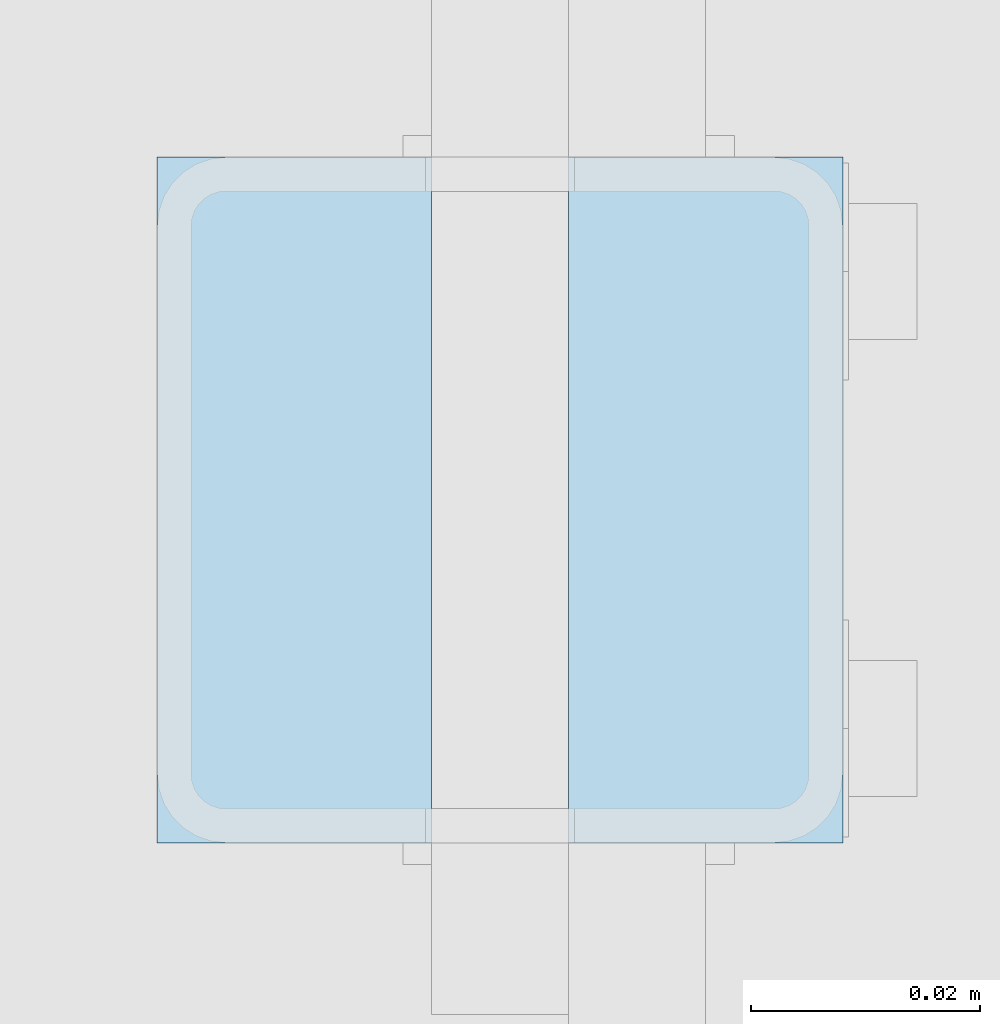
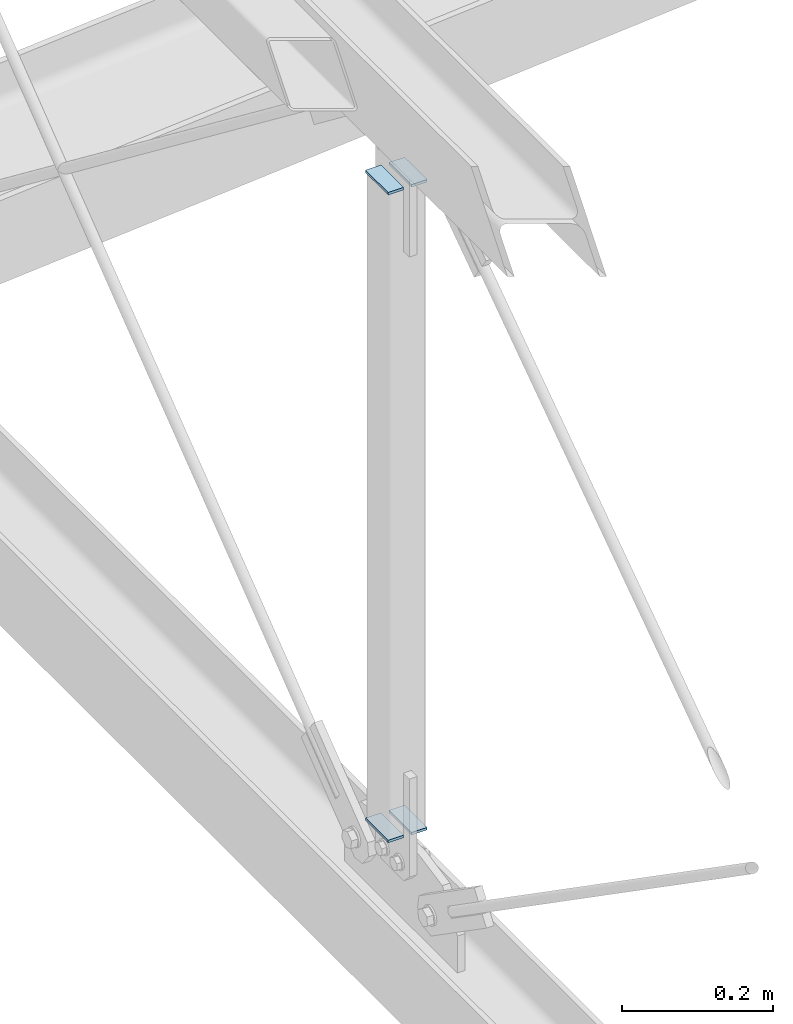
# One storey, part 204 of 271: 4 plates, 1 element without a shape of its own.
"""IFC2X3 building model written with IfcOpenShell, lengths in millimetres."""

import ifcopenshell
import ifcopenshell.guid

model = None  # the IFC model being written
_history = None  # IfcOwnerHistory: only IFC2X3 demands one
_inside = {}  # id of a spatial element -> (the spatial element, [elements in it])
_under = {}  # id of a project, library or spatial element -> (it, [spatial elements below it])
_declared = {}  # id of a project -> (the project, [libraries it declares])
_typed = {}  # id of a type object -> (the type object, [elements of that type])
_made_of = {}  # id of a material, layer set ... -> (it, [elements and type objects made of it])


def new_model(schema):
    """Start an empty IFC model of exactly this schema.

    Asked for "IFC4X3", IfcOpenShell would pick the latest addendum, in which some entities
    have other attributes; the version numbers below select the first issue.
    IFC2X3 requires an IfcOwnerHistory on every rooted entity: one is made here for all.
    """
    global model, _history
    if schema == "IFC4X3":
        model = ifcopenshell.file(schema_version=(4, 3, 0, 0))
    else:
        model = ifcopenshell.file(schema=schema)
    _inside.clear()
    _under.clear()
    _declared.clear()
    _typed.clear()
    _made_of.clear()
    _history = None
    if model.schema == "IFC2X3":
        org = make("IfcOrganization", Name="unknown")
        user = make(
            "IfcPersonAndOrganization",
            ThePerson=make("IfcPerson", FamilyName="unknown"),
            TheOrganization=org,
        )
        app = make(
            "IfcApplication",
            ApplicationDeveloper=org,
            Version="unknown",
            ApplicationFullName="unknown",
            ApplicationIdentifier="unknown",
        )
        _history = make(
            "IfcOwnerHistory",
            OwningUser=user,
            OwningApplication=app,
            ChangeAction="ADDED",
            CreationDate=0,
        )
    return model


def make(cls, **values):
    """One entity of the class cls with the attributes given. An attribute that is None is left unset."""
    return model.create_entity(
        cls, **{name: value for name, value in values.items() if value is not None}
    )


def rooted(cls, **values):
    """An entity with a GlobalId (a new one), such as an element, a storey or a relation."""
    return make(cls, GlobalId=ifcopenshell.guid.new(), OwnerHistory=_history, **values)


def si_unit(unit_type, name, prefix=None):
    """IfcSIUnit, for example si_unit("LENGTHUNIT", "METRE", prefix="MILLI")."""
    return make("IfcSIUnit", UnitType=unit_type, Prefix=prefix, Name=name)


def assignment(units):
    """IfcUnitAssignment: the units of a project."""
    return None if units is None else make("IfcUnitAssignment", Units=units)


def point(xyz):
    """IfcCartesianPoint."""
    return None if xyz is None else make("IfcCartesianPoint", Coordinates=xyz)


def direction(xyz):
    """IfcDirection."""
    return None if xyz is None else make("IfcDirection", DirectionRatios=xyz)


def frame(location, z_axis=None, x_axis=None):
    """IfcAxis2Placement3D, a coordinate frame: its origin and axes. An axis left out is left unset."""
    return make(
        "IfcAxis2Placement3D",
        Location=point(location),
        Axis=direction(z_axis),
        RefDirection=direction(x_axis),
    )


def origin_with_axes():
    """The frame at (0, 0, 0) with the z axis (0, 0, 1) and the x axis (1, 0, 0) written out."""
    return frame((0.0, 0.0, 0.0), z_axis=(0.0, 0.0, 1.0), x_axis=(1.0, 0.0, 0.0))


def place(relative_to, where):
    """IfcLocalPlacement: puts the frame where relative to a parent placement (None: the world)."""
    return make(
        "IfcLocalPlacement", PlacementRelTo=relative_to, RelativePlacement=where
    )


def context(
    kind, dimensions, precision=None, world=None, true_north=None, identifier=None
):
    """IfcGeometricRepresentationContext, for example the 3D "Model" context."""
    return make(
        "IfcGeometricRepresentationContext",
        ContextIdentifier=identifier,
        ContextType=kind,
        CoordinateSpaceDimension=dimensions,
        Precision=precision,
        WorldCoordinateSystem=world,
        TrueNorth=true_north,
    )


def subcontext(parent, identifier, kind, view, scale=None):
    """IfcGeometricRepresentationSubContext, for example "Body" below "Model"."""
    return make(
        "IfcGeometricRepresentationSubContext",
        ContextIdentifier=identifier,
        ContextType=kind,
        ParentContext=parent,
        TargetScale=scale,
        TargetView=view,
    )


def project(units=None, contexts=None):
    """IfcProject with its units and contexts."""
    return rooted(
        "IfcProject",
        Name="project",
        RepresentationContexts=contexts,
        UnitsInContext=assignment(units),
    )


def spatial(cls, under=None, at=None, **own):
    """A site, building, storey or space (cls), placed at a placement, below another one or the project."""
    s = rooted(cls, ObjectPlacement=at, **own)
    if under is not None:
        _under.setdefault(under.id(), (under, []))[1].append(s)
    return s


def polyline(points):
    """IfcPolyline through the points."""
    return make("IfcPolyline", Points=[point(p) for p in points])


def outline(outer, holes=None, kind="AREA"):
    """IfcArbitraryClosedProfileDef: a profile drawn as a closed curve; with holes, ...WithVoids."""
    if holes is None:
        return make("IfcArbitraryClosedProfileDef", ProfileType=kind, OuterCurve=outer)
    return make(
        "IfcArbitraryProfileDefWithVoids",
        ProfileType=kind,
        OuterCurve=outer,
        InnerCurves=holes,
    )


def extrude(swept, where, along, depth):
    """IfcExtrudedAreaSolid: the profile swept, set in the frame where, extruded along a direction by depth."""
    return make(
        "IfcExtrudedAreaSolid",
        SweptArea=swept,
        Position=where,
        ExtrudedDirection=direction(along),
        Depth=depth,
    )


def shape(context_of_items, identifier, shape_type, items):
    """IfcShapeRepresentation: the items that make up one representation, for example the "Body"."""
    return make(
        "IfcShapeRepresentation",
        ContextOfItems=context_of_items,
        RepresentationIdentifier=identifier,
        RepresentationType=shape_type,
        Items=items,
    )


def material(Name=None, Category=None):
    """IfcMaterial."""
    return make("IfcMaterial", Name=Name, Category=Category)


def made_of(thing, what):
    """Note that an element or type object is made of a material, layer set ...; save() writes the relation."""
    if what is not None:
        _made_of.setdefault(what.id(), (what, []))[1].append(thing)
    return thing


def type_object(cls, material=None, **own):
    """A type object (cls), such as IfcWallType, which elements share."""
    return made_of(rooted(cls, **own), material)


def element(
    cls,
    number,
    at=None,
    inside=None,
    cuts=None,
    type_object=None,
    material=None,
    context=None,
    identifier="Body",
    shape_type=None,
    held_by="IfcProductDefinitionShape",
    body=None,
    shapes=None,
    **own,
):
    """One element of the class cls, such as IfcWall. Its Tag is "e" and its number.

    at: its placement. inside: the storey or other place that contains it. cuts: it is an
    opening in that element (IfcRelVoidsElement). A single representation is given by context,
    identifier, shape_type and body (its items); several are given by shapes. held_by: the class
    of the entity that holds the representations. save() writes the other relations.
    """
    e = rooted(cls, Tag="e%d" % number, ObjectPlacement=at, **own)
    if body is not None:
        shapes = [shape(context, identifier, shape_type, body)]
    if shapes is not None:
        e.Representation = make(held_by, Representations=shapes)
    if inside is not None:
        _inside.setdefault(inside.id(), (inside, []))[1].append(e)
    if cuts is not None:
        rooted(
            "IfcRelVoidsElement", RelatingBuildingElement=cuts, RelatedOpeningElement=e
        )
    if type_object is not None:
        _typed.setdefault(type_object.id(), (type_object, []))[1].append(e)
    return made_of(e, material)


def aggregate(whole, parts):
    """IfcRelAggregates: a whole, such as a stair, and the parts it consists of."""
    return rooted("IfcRelAggregates", RelatingObject=whole, RelatedObjects=parts)


def save(model, path):
    """Write the relations noted so far, then the file.

    IfcRelAggregates (storeys below a building ...), IfcRelContainedInSpatialStructure (elements
    in a storey), IfcRelDefinesByType, IfcRelAssociatesMaterial and IfcRelDeclares: one each for
    every whole, place, type object, material and project.
    """
    for whole, parts in _under.values():
        aggregate(whole, parts)
    for where, things in _inside.values():
        rooted(
            "IfcRelContainedInSpatialStructure",
            RelatedElements=things,
            RelatingStructure=where,
        )
    for kind, things in _typed.values():
        rooted("IfcRelDefinesByType", RelatedObjects=things, RelatingType=kind)
    for what, things in _made_of.values():
        rooted("IfcRelAssociatesMaterial", RelatedObjects=things, RelatingMaterial=what)
    for by, libraries in _declared.values():
        rooted("IfcRelDeclares", RelatingContext=by, RelatedDefinitions=libraries)
    model.write(path)


model = new_model("IFC2X3")

# Units and contexts
model_context = context("Model", 3, precision=1e-05, world=origin_with_axes())
body_context = subcontext(model_context, "Body", "Model", "MODEL_VIEW")
ifc_project = project(units=[si_unit("LENGTHUNIT", "METRE", prefix="MILLI"), si_unit("AREAUNIT", "SQUARE_METRE"), si_unit("VOLUMEUNIT", "CUBIC_METRE"), si_unit("MASSUNIT", "GRAM", prefix="KILO"), si_unit("TIMEUNIT", "SECOND"), si_unit("PLANEANGLEUNIT", "RADIAN"), si_unit("SOLIDANGLEUNIT", "STERADIAN"), si_unit("THERMODYNAMICTEMPERATUREUNIT", "DEGREE_CELSIUS"), si_unit("LUMINOUSINTENSITYUNIT", "LUMEN")], contexts=[model_context])

# Site, building, storey
site_placement = place(None, origin_with_axes())
site = spatial("IfcSite", under=ifc_project, at=site_placement, Name="Undefined", CompositionType="ELEMENT")
building_placement = place(site_placement, origin_with_axes())
building = spatial("IfcBuilding", under=site, at=building_placement, Name="Undefined", CompositionType="ELEMENT")
storey_placement = place(building_placement, origin_with_axes())
storey = spatial("IfcBuildingStorey", under=building, at=storey_placement, Name="Undefined", CompositionType="ELEMENT", Elevation=0.0)

# Assembly, plates
assembly_placement = place(storey_placement, origin_with_axes())
assembly = element("IfcElementAssembly", 1, at=assembly_placement, inside=storey, AssemblyPlace="NOTDEFINED", PredefinedType="RIGID_FRAME")
ifc_material = material(Name="STEEL/S355JR")
plate_type = type_object("IfcPlateType", Name="BL4*24", PredefinedType="NOTDEFINED")
plate_1_placement = place(assembly_placement, frame((6317.37568767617, 2009.19355050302, 19849.8242735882), z_axis=(0.0, 0.0, -1.0), x_axis=(1.0, 0.0, 0.0)))
plate_1 = element("IfcPlate", 2, at=plate_1_placement, type_object=plate_type, material=ifc_material, Name="BLACHA", ObjectType="BL4*24", context=body_context, shape_type="SweptSolid", body=[
    extrude(outline(polyline([(0.0, 0.0), (24.0, 0.0), (24.0, 60.0), (0.0, 60.0), (0.0, 0.0)])), frame((0.0, 0.0, -2.0), z_axis=(0.0, 0.0, 1.0), x_axis=(1.0, 0.0, 0.0)), (0.0, 0.0, 1.0), 4.0),
])
plate_2_placement = place(assembly_placement, frame((6353.37568736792, 2009.19355050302, 19849.8242735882), z_axis=(0.0, 0.0, -1.0), x_axis=(1.0, 0.0, 0.0)))
plate_2 = element("IfcPlate", 3, at=plate_2_placement, type_object=plate_type, material=ifc_material, Name="BLACHA", ObjectType="BL4*24", context=body_context, shape_type="SweptSolid", body=[
    extrude(outline(polyline([(0.0, 0.0), (24.0, 0.0), (24.0, 60.0), (0.0, 60.0), (0.0, 0.0)])), frame((0.0, 0.0, -2.0), z_axis=(0.0, 0.0, 1.0), x_axis=(1.0, 0.0, 0.0)), (0.0, 0.0, 1.0), 4.0),
])
plate_3_placement = place(assembly_placement, frame((6317.37568767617, 1949.19355050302, 18799.099999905), z_axis=(0.0, 0.0, 1.0), x_axis=(1.0, 0.0, 0.0)))
plate_3 = element("IfcPlate", 4, at=plate_3_placement, type_object=plate_type, material=ifc_material, Name="BLACHA", ObjectType="BL4*24", context=body_context, shape_type="SweptSolid", body=[
    extrude(outline(polyline([(0.0, 0.0), (24.0, 0.0), (24.0, 60.0), (0.0, 60.0), (0.0, 0.0)])), frame((0.0, 0.0, -2.0), z_axis=(0.0, 0.0, 1.0), x_axis=(1.0, 0.0, 0.0)), (0.0, 0.0, 1.0), 4.0),
])
plate_4_placement = place(assembly_placement, frame((6353.37568736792, 1949.19355050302, 18799.099999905), z_axis=(0.0, 0.0, 1.0), x_axis=(1.0, 0.0, 0.0)))
plate_4 = element("IfcPlate", 5, at=plate_4_placement, type_object=plate_type, material=ifc_material, Name="BLACHA", ObjectType="BL4*24", context=body_context, shape_type="SweptSolid", body=[
    extrude(outline(polyline([(0.0, 0.0), (24.0, 0.0), (24.0, 60.0), (0.0, 60.0), (0.0, 0.0)])), frame((0.0, 0.0, -2.0), z_axis=(0.0, 0.0, 1.0), x_axis=(1.0, 0.0, 0.0)), (0.0, 0.0, 1.0), 4.0),
])
aggregate(assembly, [plate_1, plate_2, plate_3, plate_4])

save(model, "model.ifc")
